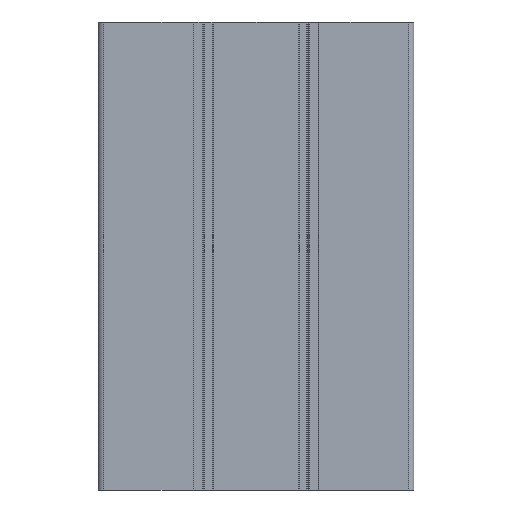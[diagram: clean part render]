
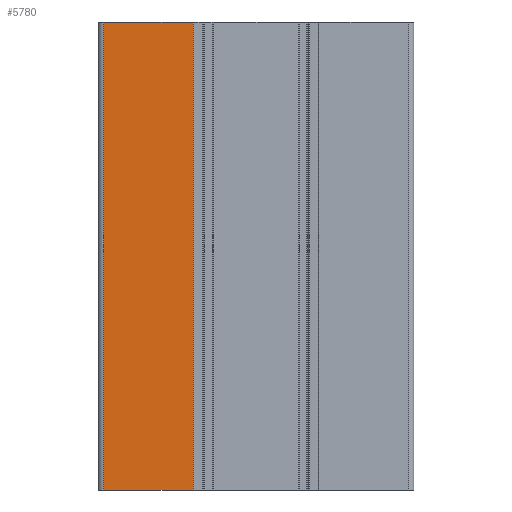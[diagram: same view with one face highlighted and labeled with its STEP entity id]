
A CAD part, left-side view. The second image highlights one B-rep face of the part: STEP entity #5780.
In plain terms, the highlighted planar face has unit normal (-1, 0, 0).
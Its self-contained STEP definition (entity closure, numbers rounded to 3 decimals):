
#116 = VECTOR ( 'NONE', #3742, 1000. ) ;
#176 = LINE ( 'NONE', #4048, #196 ) ;
#196 = VECTOR ( 'NONE', #4038, 1000. ) ;
#235 = LINE ( 'NONE', #3594, #116 ) ;
#398 = EDGE_CURVE ( 'NONE', #1905, #5386, #1127, .T. ) ;
#1024 = EDGE_CURVE ( 'NONE', #1957, #2552, #176, .T. ) ;
#1110 = VECTOR ( 'NONE', #3930, 1000. ) ;
#1127 = LINE ( 'NONE', #5062, #1110 ) ;
#1255 = CARTESIAN_POINT ( 'NONE',  ( -9.866, 64.883, 0. ) ) ;
#1303 = CARTESIAN_POINT ( 'NONE',  ( -9.866, 26.783, 0. ) ) ;
#1426 = VECTOR ( 'NONE', #5106, 1000. ) ;
#1433 = LINE ( 'NONE', #5140, #1426 ) ;
#1905 = VERTEX_POINT ( 'NONE', #4370 ) ;
#1957 = VERTEX_POINT ( 'NONE', #3886 ) ;
#2552 = VERTEX_POINT ( 'NONE', #1255 ) ;
#3564 = EDGE_CURVE ( 'NONE', #1957, #1905, #1433, .T. ) ;
#3594 = CARTESIAN_POINT ( 'NONE',  ( -9.866, 64.883, 0. ) ) ;
#3637 = FACE_OUTER_BOUND ( 'NONE', #6001, .T. ) ;
#3742 = DIRECTION ( 'NONE',  ( 0., -1., 0. ) ) ;
#3886 = CARTESIAN_POINT ( 'NONE',  ( -9.866, 64.883, 200. ) ) ;
#3930 = DIRECTION ( 'NONE',  ( 0., 0., -1. ) ) ;
#4038 = DIRECTION ( 'NONE',  ( 0., 0., -1. ) ) ;
#4048 = CARTESIAN_POINT ( 'NONE',  ( -9.866, 64.883, 200. ) ) ;
#4119 = AXIS2_PLACEMENT_3D ( 'NONE', #5837, #5786, #5724 ) ;
#4369 = EDGE_CURVE ( 'NONE', #2552, #5386, #235, .T. ) ;
#4370 = CARTESIAN_POINT ( 'NONE',  ( -9.866, 26.783, 200. ) ) ;
#4667 = ORIENTED_EDGE ( 'NONE', *, *, #3564, .F. ) ;
#4869 = ORIENTED_EDGE ( 'NONE', *, *, #1024, .T. ) ;
#4940 = ORIENTED_EDGE ( 'NONE', *, *, #4369, .T. ) ;
#5062 = CARTESIAN_POINT ( 'NONE',  ( -9.866, 26.783, 200. ) ) ;
#5106 = DIRECTION ( 'NONE',  ( 0., -1., 0. ) ) ;
#5140 = CARTESIAN_POINT ( 'NONE',  ( -9.866, 64.883, 200. ) ) ;
#5145 = ORIENTED_EDGE ( 'NONE', *, *, #398, .F. ) ;
#5386 = VERTEX_POINT ( 'NONE', #1303 ) ;
#5724 = DIRECTION ( 'NONE',  ( 0., 0., -1. ) ) ;
#5780 = ADVANCED_FACE ( 'NONE', ( #3637 ), #5848, .F. ) ;
#5786 = DIRECTION ( 'NONE',  ( 1., 0., 0. ) ) ;
#5837 = CARTESIAN_POINT ( 'NONE',  ( -9.866, 64.883, 200. ) ) ;
#5848 = PLANE ( 'NONE',  #4119 ) ;
#6001 = EDGE_LOOP ( 'NONE', ( #4940, #5145, #4667, #4869 ) ) ;
